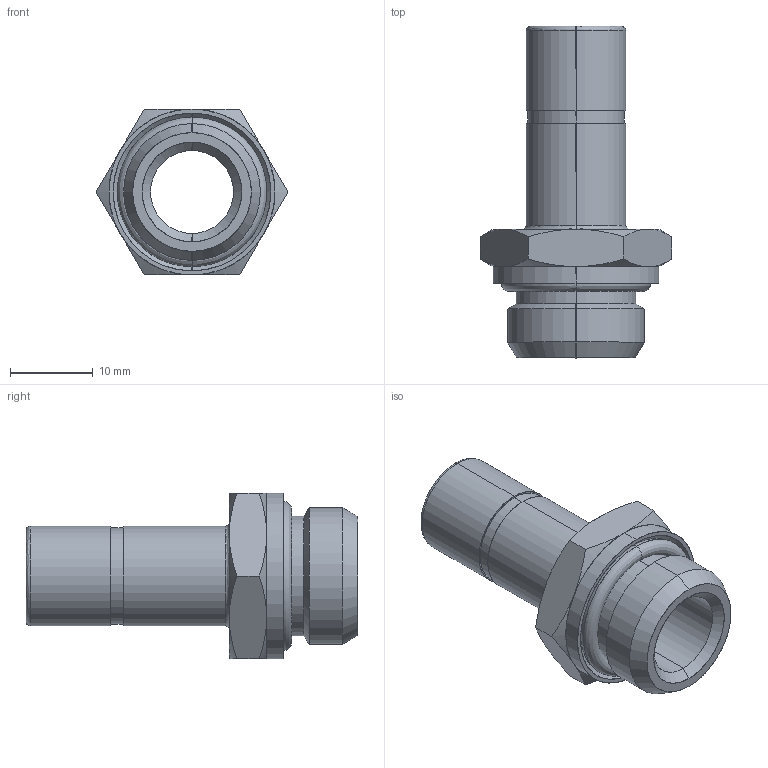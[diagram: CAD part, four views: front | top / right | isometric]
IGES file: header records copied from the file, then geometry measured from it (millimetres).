
Start section: SolidWorks IGES file using analytic representation for surfaces
Global section: file name: C:\Users\cad06\Desktop\Nuova cartella\50600V0011.IGS; native system: SolidWorks 2016; preprocessor: SolidWorks 2016; author: cad06; date: 160520.140930; units: millimetre
Bounding box: 23.09 x 40 x 20 mm (x, y, z)
Surface area: 3891.3 mm2 (no closed solid volume)
Topology: 0 solids, 0 shells, 57 faces, 824 edges, 824 vertices
Faces by surface type: revolution 34, bspline 23
